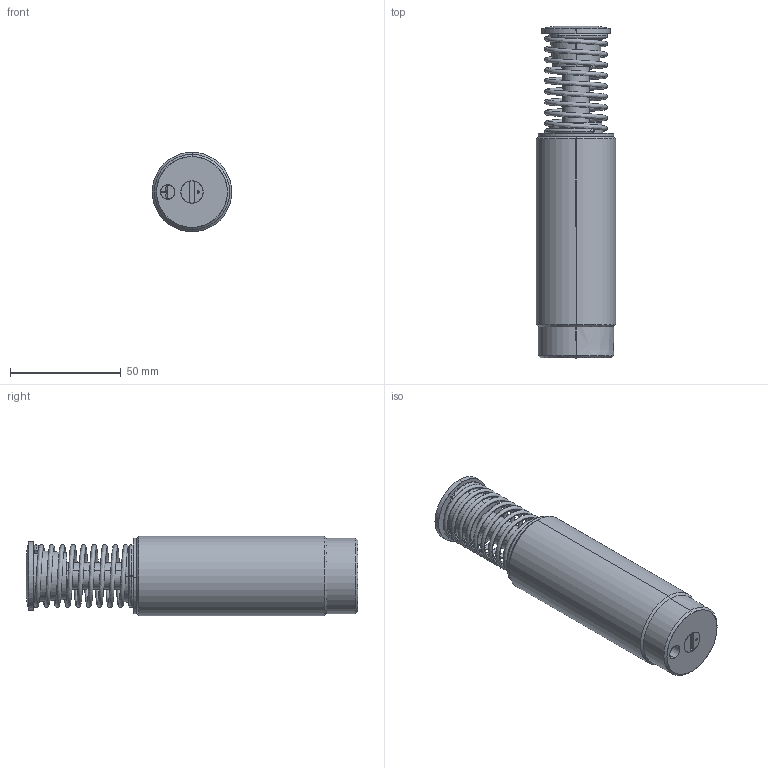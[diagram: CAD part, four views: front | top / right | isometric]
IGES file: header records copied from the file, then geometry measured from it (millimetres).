
Start section: SolidWorks IGES file using analytic representation for surfaces
Bounding box: 36 x 150 x 36 mm (x, y, z)
Surface area: 25620.6 mm2 (no closed solid volume)
Topology: 0 solids, 0 shells, 89 faces, 1408 edges, 1406 vertices
Faces by surface type: revolution 48, bspline 41
